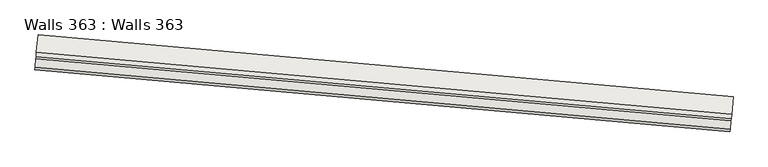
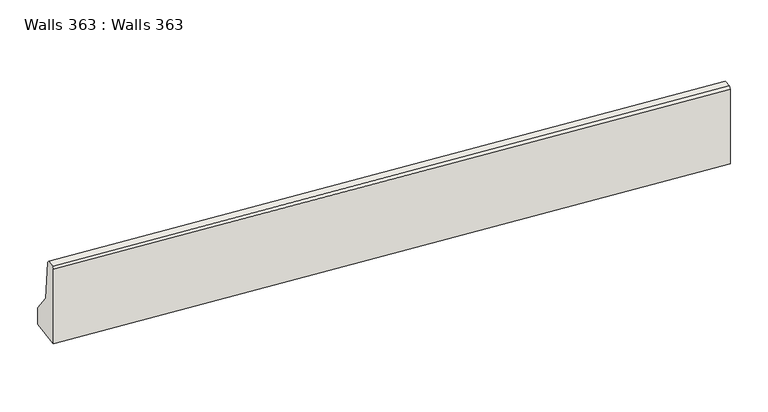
"""IFC4 building model written with IfcOpenShell, lengths in millimetres: wall geometry, Walls 363 : Walls 363."""

import ifcopenshell
import ifcopenshell.guid

model = None  # the IFC model being written
_history = None  # IfcOwnerHistory: only IFC2X3 demands one
_inside = {}  # id of a spatial element -> (the spatial element, [elements in it])
_under = {}  # id of a project, library or spatial element -> (it, [spatial elements below it])
_declared = {}  # id of a project -> (the project, [libraries it declares])
_typed = {}  # id of a type object -> (the type object, [elements of that type])
_made_of = {}  # id of a material, layer set ... -> (it, [elements and type objects made of it])


def new_model(schema):
    """Start an empty IFC model of exactly this schema.

    Asked for "IFC4X3", IfcOpenShell would pick the latest addendum, in which some entities
    have other attributes; the version numbers below select the first issue.
    IFC2X3 requires an IfcOwnerHistory on every rooted entity: one is made here for all.
    """
    global model, _history
    if schema == "IFC4X3":
        model = ifcopenshell.file(schema_version=(4, 3, 0, 0))
    else:
        model = ifcopenshell.file(schema=schema)
    _inside.clear()
    _under.clear()
    _declared.clear()
    _typed.clear()
    _made_of.clear()
    _history = None
    if model.schema == "IFC2X3":
        org = make("IfcOrganization", Name="unknown")
        user = make(
            "IfcPersonAndOrganization",
            ThePerson=make("IfcPerson", FamilyName="unknown"),
            TheOrganization=org,
        )
        app = make(
            "IfcApplication",
            ApplicationDeveloper=org,
            Version="unknown",
            ApplicationFullName="unknown",
            ApplicationIdentifier="unknown",
        )
        _history = make(
            "IfcOwnerHistory",
            OwningUser=user,
            OwningApplication=app,
            ChangeAction="ADDED",
            CreationDate=0,
        )
    return model


def make(cls, **values):
    """One entity of the class cls with the attributes given. An attribute that is None is left unset."""
    return model.create_entity(
        cls, **{name: value for name, value in values.items() if value is not None}
    )


def rooted(cls, **values):
    """An entity with a GlobalId (a new one), such as an element, a storey or a relation."""
    return make(cls, GlobalId=ifcopenshell.guid.new(), OwnerHistory=_history, **values)


def si_unit(unit_type, name, prefix=None):
    """IfcSIUnit, for example si_unit("LENGTHUNIT", "METRE", prefix="MILLI")."""
    return make("IfcSIUnit", UnitType=unit_type, Prefix=prefix, Name=name)


def assignment(units):
    """IfcUnitAssignment: the units of a project."""
    return None if units is None else make("IfcUnitAssignment", Units=units)


def point(xyz):
    """IfcCartesianPoint."""
    return None if xyz is None else make("IfcCartesianPoint", Coordinates=xyz)


def direction(xyz):
    """IfcDirection."""
    return None if xyz is None else make("IfcDirection", DirectionRatios=xyz)


def frame(location, z_axis=None, x_axis=None):
    """IfcAxis2Placement3D, a coordinate frame: its origin and axes. An axis left out is left unset."""
    return make(
        "IfcAxis2Placement3D",
        Location=point(location),
        Axis=direction(z_axis),
        RefDirection=direction(x_axis),
    )


def origin():
    """The frame at (0, 0, 0) with its axes left unset."""
    return frame((0.0, 0.0, 0.0))


def place(relative_to, where):
    """IfcLocalPlacement: puts the frame where relative to a parent placement (None: the world)."""
    return make(
        "IfcLocalPlacement", PlacementRelTo=relative_to, RelativePlacement=where
    )


def context(
    kind, dimensions, precision=None, world=None, true_north=None, identifier=None
):
    """IfcGeometricRepresentationContext, for example the 3D "Model" context."""
    return make(
        "IfcGeometricRepresentationContext",
        ContextIdentifier=identifier,
        ContextType=kind,
        CoordinateSpaceDimension=dimensions,
        Precision=precision,
        WorldCoordinateSystem=world,
        TrueNorth=true_north,
    )


def project(units=None, contexts=None):
    """IfcProject with its units and contexts."""
    return rooted(
        "IfcProject",
        Name="project",
        RepresentationContexts=contexts,
        UnitsInContext=assignment(units),
    )


def spatial(cls, under=None, at=None, **own):
    """A site, building, storey or space (cls), placed at a placement, below another one or the project."""
    s = rooted(cls, ObjectPlacement=at, **own)
    if under is not None:
        _under.setdefault(under.id(), (under, []))[1].append(s)
    return s


def polyline(points):
    """IfcPolyline through the points."""
    return make("IfcPolyline", Points=[point(p) for p in points])


def outline(outer, holes=None, kind="AREA"):
    """IfcArbitraryClosedProfileDef: a profile drawn as a closed curve; with holes, ...WithVoids."""
    if holes is None:
        return make("IfcArbitraryClosedProfileDef", ProfileType=kind, OuterCurve=outer)
    return make(
        "IfcArbitraryProfileDefWithVoids",
        ProfileType=kind,
        OuterCurve=outer,
        InnerCurves=holes,
    )


def extrude(swept, where, along, depth):
    """IfcExtrudedAreaSolid: the profile swept, set in the frame where, extruded along a direction by depth."""
    return make(
        "IfcExtrudedAreaSolid",
        SweptArea=swept,
        Position=where,
        ExtrudedDirection=direction(along),
        Depth=depth,
    )


def shape(context_of_items, identifier, shape_type, items):
    """IfcShapeRepresentation: the items that make up one representation, for example the "Body"."""
    return make(
        "IfcShapeRepresentation",
        ContextOfItems=context_of_items,
        RepresentationIdentifier=identifier,
        RepresentationType=shape_type,
        Items=items,
    )


def source(mapping_origin, context_of_items, identifier, shape_type, items):
    """IfcRepresentationMap: a shape defined once, which mapped items show again and again."""
    return make(
        "IfcRepresentationMap",
        MappingOrigin=mapping_origin,
        MappedRepresentation=shape(context_of_items, identifier, shape_type, items),
    )


def transform(
    local_origin,
    x_axis=None,
    y_axis=None,
    z_axis=None,
    scale=None,
    scale2=None,
    scale3=None,
    uniform=True,
):
    """IfcCartesianTransformationOperator3D, or its non-uniform kind. x_axis, y_axis, z_axis: its Axis1, 2, 3."""
    if uniform:
        return make(
            "IfcCartesianTransformationOperator3D",
            Axis1=direction(x_axis),
            Axis2=direction(y_axis),
            LocalOrigin=point(local_origin),
            Scale=scale,
            Axis3=direction(z_axis),
        )
    return make(
        "IfcCartesianTransformationOperator3DnonUniform",
        Axis1=direction(x_axis),
        Axis2=direction(y_axis),
        LocalOrigin=point(local_origin),
        Scale=scale,
        Axis3=direction(z_axis),
        Scale2=scale2,
        Scale3=scale3,
    )


def mapped(mapping_source, mapping_target):
    """IfcMappedItem: shows the shape of a source again, moved by a transform."""
    return make(
        "IfcMappedItem", MappingSource=mapping_source, MappingTarget=mapping_target
    )


def made_of(thing, what):
    """Note that an element or type object is made of a material, layer set ...; save() writes the relation."""
    if what is not None:
        _made_of.setdefault(what.id(), (what, []))[1].append(thing)
    return thing


def element(
    cls,
    number,
    at=None,
    inside=None,
    cuts=None,
    type_object=None,
    material=None,
    context=None,
    identifier="Body",
    shape_type=None,
    held_by="IfcProductDefinitionShape",
    body=None,
    shapes=None,
    **own,
):
    """One element of the class cls, such as IfcWall. Its Tag is "e" and its number.

    at: its placement. inside: the storey or other place that contains it. cuts: it is an
    opening in that element (IfcRelVoidsElement). A single representation is given by context,
    identifier, shape_type and body (its items); several are given by shapes. held_by: the class
    of the entity that holds the representations. save() writes the other relations.
    """
    e = rooted(cls, Tag="e%d" % number, ObjectPlacement=at, **own)
    if body is not None:
        shapes = [shape(context, identifier, shape_type, body)]
    if shapes is not None:
        e.Representation = make(held_by, Representations=shapes)
    if inside is not None:
        _inside.setdefault(inside.id(), (inside, []))[1].append(e)
    if cuts is not None:
        rooted(
            "IfcRelVoidsElement", RelatingBuildingElement=cuts, RelatedOpeningElement=e
        )
    if type_object is not None:
        _typed.setdefault(type_object.id(), (type_object, []))[1].append(e)
    return made_of(e, material)


def aggregate(whole, parts):
    """IfcRelAggregates: a whole, such as a stair, and the parts it consists of."""
    return rooted("IfcRelAggregates", RelatingObject=whole, RelatedObjects=parts)


def save(model, path):
    """Write the relations noted so far, then the file.

    IfcRelAggregates (storeys below a building ...), IfcRelContainedInSpatialStructure (elements
    in a storey), IfcRelDefinesByType, IfcRelAssociatesMaterial and IfcRelDeclares: one each for
    every whole, place, type object, material and project.
    """
    for whole, parts in _under.values():
        aggregate(whole, parts)
    for where, things in _inside.values():
        rooted(
            "IfcRelContainedInSpatialStructure",
            RelatedElements=things,
            RelatingStructure=where,
        )
    for kind, things in _typed.values():
        rooted("IfcRelDefinesByType", RelatedObjects=things, RelatingType=kind)
    for what, things in _made_of.values():
        rooted("IfcRelAssociatesMaterial", RelatedObjects=things, RelatingMaterial=what)
    for by, libraries in _declared.values():
        rooted("IfcRelDeclares", RelatingContext=by, RelatedDefinitions=libraries)
    model.write(path)


def walls_363_walls_363_e23f1c93(model_context):
    return source(origin(), model_context, "Body", "SweptSolid", [
        extrude(outline(polyline([(636680.0, 400.0), (636930.0, 199.9999999), (637435.0, 150.0), (637460.0, 125.0), (637460.0, 24.9999999), (637435.0, 0.0), (636460.0, 0.0), (636460.0, 400.0), (636680.0, 400.0)])), frame((-698574.4510382, -416845.3622213, 0.0), z_axis=(-0.9960550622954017, 0.08873732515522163, 0.0), x_axis=(0.0, 0.0, 1.0)), (0.0, 0.0, 1.0), 7999.9999999),
    ])


if __name__ == "__main__":
    model = new_model("IFC4")
    model_context = context("Model", 3, world=origin())
    ifc_project = project(units=[si_unit("LENGTHUNIT", "METRE", prefix="MILLI")], contexts=[model_context])
    site = spatial("IfcSite", under=ifc_project)
    building = spatial("IfcBuilding", under=site)
    placement = place(None, origin())
    walls_363_walls_363_shape = walls_363_walls_363_e23f1c93(model_context)
    element("IfcWall", 1, ObjectType="Walls 363 : Walls 363", at=placement, inside=building, context=model_context, shape_type="MappedRepresentation", body=[
        mapped(walls_363_walls_363_shape, transform((0.0, 0.0, 0.0), x_axis=(1.0, 0.0, 0.0), y_axis=(0.0, 1.0, 0.0), z_axis=(0.0, 0.0, 1.0))),
    ])
    save(model, "model.ifc")
